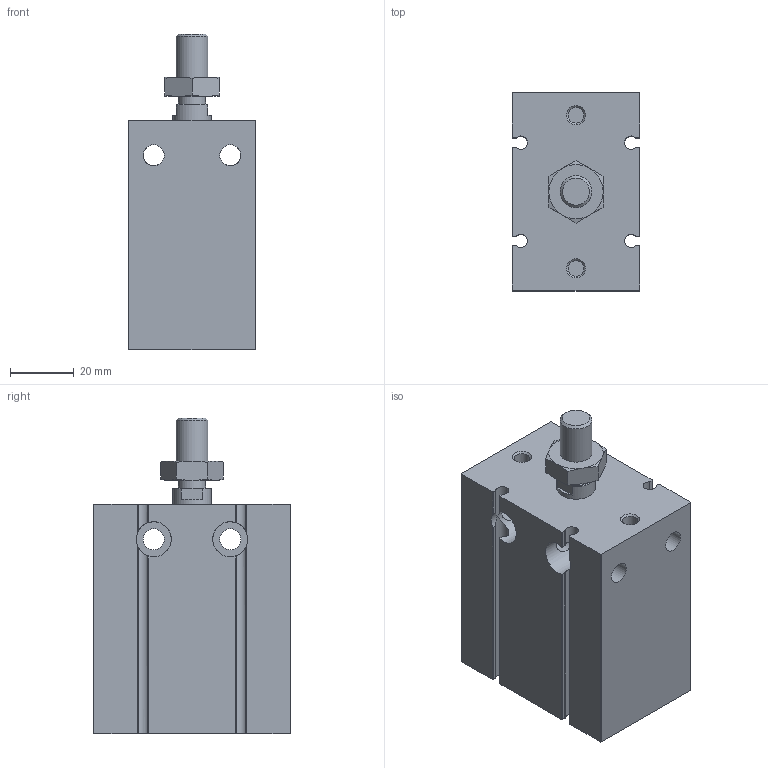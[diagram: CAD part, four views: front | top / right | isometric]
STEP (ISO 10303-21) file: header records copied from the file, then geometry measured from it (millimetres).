
FILE_DESCRIPTION( ( 'STEP AP214' ), '1' );
FILE_NAME( 'C:/Users/EMC02301/Desktop/EU图纸/EU32X20-0-S.stp', '2026-08-12T01:03:29', ( 'License CC BY-ND 4.0' ), ( 'CADENAS' ), ' ', 'PARTsolutions', ' ' );
FILE_SCHEMA( ( 'AUTOMOTIVE_DESIGN { 1 0 10303 214 1 1 1 1 }' ) );
Length unit declared in the file: millimetre
Products named in the file (4): EU32X20-0-S()(0); _EU32X20-0-S()(0-dummy); _EU32X20--S()(-body); _EU32X20--S(0-rod)
Assembly tree (3 placements, depth 2):
  EU32X20-0-S()(0)
    _EU32X20-0-S()(0-dummy)
    _EU32X20--S()(-body)
    _EU32X20--S(0-rod)
Bounding box: 40 x 62 x 99 mm (x, y, z)
Volume: 154471.8 mm3; surface area: 38011.6 mm2
Topology: 2 solids, 2 shells, 145 faces, 367 edges, 239 vertices
Faces by surface type: cylinder 72, plane 54, cone 19
Full cylindrical faces by diameter (mm): 4.917 x4, 6.6 x8, 8.466 x1, 9.728 x2, 10 x1, 11 x4, 12 x2, 32 x2
Entity records: 6374 total; most frequent: CARTESIAN_POINT 1834, ORIENTED_EDGE 664, DIRECTION 660, EDGE_CURVE 332, AXIS2_PLACEMENT_3D 263, VERTEX_POINT 232, EDGE_LOOP 202, FACE_OUTER_BOUND 169
